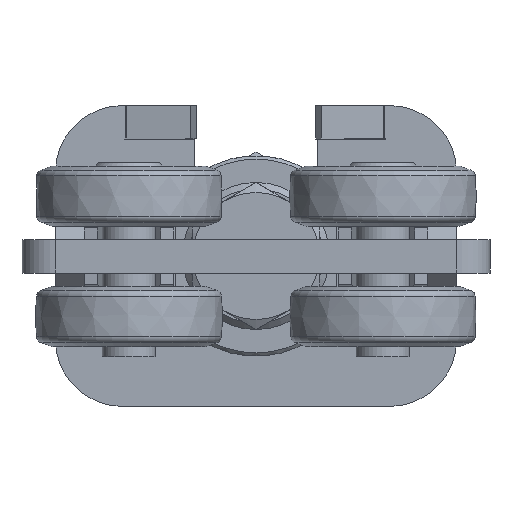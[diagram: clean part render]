
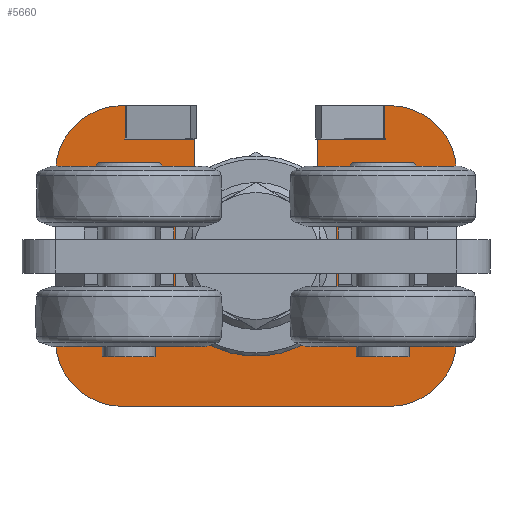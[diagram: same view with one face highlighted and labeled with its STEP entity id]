
A CAD part, front view. The second image highlights one B-rep face of the part: STEP entity #5660.
In plain terms, the highlighted planar face has unit normal (0, -1, 0) as drawn and (0, 0, 1) by its records, which use the part's own axes.
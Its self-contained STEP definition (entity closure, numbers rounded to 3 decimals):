
#188=FACE_BOUND('',#1114,.T.);
#189=FACE_BOUND('',#1115,.T.);
#282=CIRCLE('',#6048,10.);
#283=CIRCLE('',#6049,10.);
#284=CIRCLE('',#6050,10.);
#285=CIRCLE('',#6051,10.);
#286=CIRCLE('',#6052,9.25);
#768=FACE_OUTER_BOUND('',#1113,.T.);
#1113=EDGE_LOOP('',(#4081,#4082,#4083,#4084,#4085,#4086,#4087,#4088,#4089,
#4090,#4091,#4092,#4093,#4094,#4095,#4096,#4097,#4098,#4099,#4100));
#1114=EDGE_LOOP('',(#4101,#4102,#4103,#4104));
#1115=EDGE_LOOP('',(#4105,#4106,#4107,#4108));
#1562=LINE('',#8664,#2040);
#1574=LINE('',#8688,#2052);
#1578=LINE('',#8696,#2056);
#1580=LINE('',#8700,#2058);
#1583=LINE('',#8706,#2061);
#1584=LINE('',#8710,#2062);
#1585=LINE('',#8714,#2063);
#1586=LINE('',#8718,#2064);
#1587=LINE('',#8722,#2065);
#1588=LINE('',#8724,#2066);
#1589=LINE('',#8726,#2067);
#1590=LINE('',#8728,#2068);
#1591=LINE('',#8730,#2069);
#1592=LINE('',#8732,#2070);
#1593=LINE('',#8735,#2071);
#1594=LINE('',#8738,#2072);
#1595=LINE('',#8740,#2073);
#1596=LINE('',#8742,#2074);
#1597=LINE('',#8743,#2075);
#1598=LINE('',#8746,#2076);
#1599=LINE('',#8748,#2077);
#1600=LINE('',#8750,#2078);
#1601=LINE('',#8751,#2079);
#2040=VECTOR('',#6880,5.);
#2052=VECTOR('',#6906,0.1);
#2056=VECTOR('',#6912,0.1);
#2058=VECTOR('',#6916,10.379);
#2061=VECTOR('',#6921,0.471);
#2062=VECTOR('',#6924,25.);
#2063=VECTOR('',#6927,40.);
#2064=VECTOR('',#6930,25.);
#2065=VECTOR('',#6933,0.75);
#2066=VECTOR('',#6934,5.);
#2067=VECTOR('',#6935,0.1);
#2068=VECTOR('',#6936,0.1);
#2069=VECTOR('',#6937,10.1);
#2070=VECTOR('',#6938,17.45);
#2071=VECTOR('',#6941,17.45);
#2072=VECTOR('',#6942,5.2);
#2073=VECTOR('',#6943,15.7);
#2074=VECTOR('',#6944,5.2);
#2075=VECTOR('',#6945,15.7);
#2076=VECTOR('',#6946,5.2);
#2077=VECTOR('',#6947,15.7);
#2078=VECTOR('',#6948,5.2);
#2079=VECTOR('',#6949,15.7);
#2499=VERTEX_POINT('',#8651);
#2502=VERTEX_POINT('',#8658);
#2508=VERTEX_POINT('',#8687);
#2511=VERTEX_POINT('',#8695);
#2512=VERTEX_POINT('',#8699);
#2514=VERTEX_POINT('',#8705);
#2515=VERTEX_POINT('',#8707);
#2516=VERTEX_POINT('',#8709);
#2517=VERTEX_POINT('',#8711);
#2518=VERTEX_POINT('',#8713);
#2519=VERTEX_POINT('',#8715);
#2520=VERTEX_POINT('',#8717);
#2521=VERTEX_POINT('',#8719);
#2522=VERTEX_POINT('',#8721);
#2523=VERTEX_POINT('',#8723);
#2524=VERTEX_POINT('',#8725);
#2525=VERTEX_POINT('',#8727);
#2526=VERTEX_POINT('',#8729);
#2527=VERTEX_POINT('',#8731);
#2528=VERTEX_POINT('',#8733);
#2529=VERTEX_POINT('',#8736);
#2530=VERTEX_POINT('',#8737);
#2531=VERTEX_POINT('',#8739);
#2532=VERTEX_POINT('',#8741);
#2533=VERTEX_POINT('',#8744);
#2534=VERTEX_POINT('',#8745);
#2535=VERTEX_POINT('',#8747);
#2536=VERTEX_POINT('',#8749);
#3100=EDGE_CURVE('',#2499,#2502,#1562,.T.);
#3112=EDGE_CURVE('',#2508,#2499,#1574,.T.);
#3116=EDGE_CURVE('',#2511,#2508,#1578,.T.);
#3118=EDGE_CURVE('',#2511,#2512,#1580,.T.);
#3121=EDGE_CURVE('',#2514,#2502,#1583,.T.);
#3122=EDGE_CURVE('',#2515,#2514,#282,.T.);
#3123=EDGE_CURVE('',#2516,#2515,#1584,.T.);
#3124=EDGE_CURVE('',#2517,#2516,#283,.T.);
#3125=EDGE_CURVE('',#2518,#2517,#1585,.T.);
#3126=EDGE_CURVE('',#2519,#2518,#284,.T.);
#3127=EDGE_CURVE('',#2520,#2519,#1586,.T.);
#3128=EDGE_CURVE('',#2521,#2520,#285,.T.);
#3129=EDGE_CURVE('',#2522,#2521,#1587,.T.);
#3130=EDGE_CURVE('',#2522,#2523,#1588,.T.);
#3131=EDGE_CURVE('',#2523,#2524,#1589,.T.);
#3132=EDGE_CURVE('',#2524,#2525,#1590,.T.);
#3133=EDGE_CURVE('',#2525,#2526,#1591,.T.);
#3134=EDGE_CURVE('',#2527,#2526,#1592,.T.);
#3135=EDGE_CURVE('',#2528,#2527,#286,.T.);
#3136=EDGE_CURVE('',#2512,#2528,#1593,.T.);
#3137=EDGE_CURVE('',#2529,#2530,#1594,.T.);
#3138=EDGE_CURVE('',#2530,#2531,#1595,.T.);
#3139=EDGE_CURVE('',#2531,#2532,#1596,.T.);
#3140=EDGE_CURVE('',#2532,#2529,#1597,.T.);
#3141=EDGE_CURVE('',#2533,#2534,#1598,.T.);
#3142=EDGE_CURVE('',#2534,#2535,#1599,.T.);
#3143=EDGE_CURVE('',#2535,#2536,#1600,.T.);
#3144=EDGE_CURVE('',#2536,#2533,#1601,.T.);
#4081=ORIENTED_EDGE('',*,*,#3118,.F.);
#4082=ORIENTED_EDGE('',*,*,#3116,.T.);
#4083=ORIENTED_EDGE('',*,*,#3112,.T.);
#4084=ORIENTED_EDGE('',*,*,#3100,.T.);
#4085=ORIENTED_EDGE('',*,*,#3121,.F.);
#4086=ORIENTED_EDGE('',*,*,#3122,.F.);
#4087=ORIENTED_EDGE('',*,*,#3123,.F.);
#4088=ORIENTED_EDGE('',*,*,#3124,.F.);
#4089=ORIENTED_EDGE('',*,*,#3125,.F.);
#4090=ORIENTED_EDGE('',*,*,#3126,.F.);
#4091=ORIENTED_EDGE('',*,*,#3127,.F.);
#4092=ORIENTED_EDGE('',*,*,#3128,.F.);
#4093=ORIENTED_EDGE('',*,*,#3129,.F.);
#4094=ORIENTED_EDGE('',*,*,#3130,.T.);
#4095=ORIENTED_EDGE('',*,*,#3131,.T.);
#4096=ORIENTED_EDGE('',*,*,#3132,.T.);
#4097=ORIENTED_EDGE('',*,*,#3133,.T.);
#4098=ORIENTED_EDGE('',*,*,#3134,.F.);
#4099=ORIENTED_EDGE('',*,*,#3135,.F.);
#4100=ORIENTED_EDGE('',*,*,#3136,.F.);
#4101=ORIENTED_EDGE('',*,*,#3137,.T.);
#4102=ORIENTED_EDGE('',*,*,#3138,.T.);
#4103=ORIENTED_EDGE('',*,*,#3139,.T.);
#4104=ORIENTED_EDGE('',*,*,#3140,.T.);
#4105=ORIENTED_EDGE('',*,*,#3141,.T.);
#4106=ORIENTED_EDGE('',*,*,#3142,.T.);
#4107=ORIENTED_EDGE('',*,*,#3143,.T.);
#4108=ORIENTED_EDGE('',*,*,#3144,.T.);
#5461=PLANE('',#6047);
#5660=ADVANCED_FACE('',(#768,#188,#189),#5461,.T.);
#6047=AXIS2_PLACEMENT_3D('',#8704,#6919,#6920);
#6048=AXIS2_PLACEMENT_3D('',#8708,#6922,#6923);
#6049=AXIS2_PLACEMENT_3D('',#8712,#6925,#6926);
#6050=AXIS2_PLACEMENT_3D('',#8716,#6928,#6929);
#6051=AXIS2_PLACEMENT_3D('',#8720,#6931,#6932);
#6052=AXIS2_PLACEMENT_3D('',#8734,#6939,#6940);
#6880=DIRECTION('',(0.,-1.,0.));
#6906=DIRECTION('',(-1.,0.,0.));
#6912=DIRECTION('',(0.,-1.,0.));
#6916=DIRECTION('',(-1.,0.,0.));
#6919=DIRECTION('center_axis',(0.,0.,1.));
#6920=DIRECTION('ref_axis',(1.,0.,0.));
#6921=DIRECTION('',(-1.,0.,0.));
#6922=DIRECTION('center_axis',(0.,0.,-1.));
#6923=DIRECTION('ref_axis',(0.,-1.,0.));
#6924=DIRECTION('',(0.,-1.,0.));
#6925=DIRECTION('center_axis',(0.,0.,-1.));
#6926=DIRECTION('ref_axis',(1.,0.,0.));
#6927=DIRECTION('',(1.,0.,0.));
#6928=DIRECTION('center_axis',(0.,0.,-1.));
#6929=DIRECTION('ref_axis',(0.,1.,0.));
#6930=DIRECTION('',(0.,1.,0.));
#6931=DIRECTION('center_axis',(0.,0.,-1.));
#6932=DIRECTION('ref_axis',(-1.,0.,0.));
#6933=DIRECTION('',(-1.,0.,0.));
#6934=DIRECTION('',(0.,1.,0.));
#6935=DIRECTION('',(-1.,0.,0.));
#6936=DIRECTION('',(0.,1.,0.));
#6937=DIRECTION('',(1.,0.,0.));
#6938=DIRECTION('',(0.,-1.,0.));
#6939=DIRECTION('center_axis',(0.,0.,1.));
#6940=DIRECTION('ref_axis',(-1.,0.,0.));
#6941=DIRECTION('',(0.,1.,0.));
#6942=DIRECTION('',(0.,-1.,0.));
#6943=DIRECTION('',(-1.,0.,0.));
#6944=DIRECTION('',(0.,1.,0.));
#6945=DIRECTION('',(1.,0.,0.));
#6946=DIRECTION('',(0.,-1.,0.));
#6947=DIRECTION('',(-1.,0.,0.));
#6948=DIRECTION('',(0.,1.,0.));
#6949=DIRECTION('',(1.,0.,0.));
#8651=CARTESIAN_POINT('',(19.529,-17.5,5.));
#8658=CARTESIAN_POINT('',(19.529,-22.5,5.));
#8664=CARTESIAN_POINT('',(19.529,-12.346,5.));
#8687=CARTESIAN_POINT('',(19.629,-17.5,5.));
#8688=CARTESIAN_POINT('',(9.435,-17.5,5.));
#8695=CARTESIAN_POINT('',(19.629,-17.4,5.));
#8696=CARTESIAN_POINT('',(19.629,-9.846,5.));
#8699=CARTESIAN_POINT('',(9.25,-17.4,5.));
#8700=CARTESIAN_POINT('',(9.25,-17.4,5.));
#8704=CARTESIAN_POINT('Origin',(0.,-2.192,
5.));
#8705=CARTESIAN_POINT('',(20.,-22.5,5.));
#8706=CARTESIAN_POINT('',(-20.,-22.5,5.));
#8707=CARTESIAN_POINT('',(30.,-12.5,5.));
#8708=CARTESIAN_POINT('Origin',(20.,-12.5,5.));
#8709=CARTESIAN_POINT('',(30.,12.5,5.));
#8710=CARTESIAN_POINT('',(30.,-12.5,5.));
#8711=CARTESIAN_POINT('',(20.,22.5,5.));
#8712=CARTESIAN_POINT('Origin',(20.,12.5,5.));
#8713=CARTESIAN_POINT('',(-20.,22.5,5.));
#8714=CARTESIAN_POINT('',(20.,22.5,5.));
#8715=CARTESIAN_POINT('',(-30.,12.5,5.));
#8716=CARTESIAN_POINT('Origin',(-20.,12.5,5.));
#8717=CARTESIAN_POINT('',(-30.,-12.5,5.));
#8718=CARTESIAN_POINT('',(-30.,12.5,5.));
#8719=CARTESIAN_POINT('',(-20.,-22.5,5.));
#8720=CARTESIAN_POINT('Origin',(-20.,-12.5,5.));
#8721=CARTESIAN_POINT('',(-19.25,-22.5,5.));
#8722=CARTESIAN_POINT('',(-20.,-22.5,5.));
#8723=CARTESIAN_POINT('',(-19.25,-17.5,5.));
#8724=CARTESIAN_POINT('',(-19.25,-9.846,5.));
#8725=CARTESIAN_POINT('',(-19.35,-17.5,5.));
#8726=CARTESIAN_POINT('',(-9.675,-17.5,5.));
#8727=CARTESIAN_POINT('',(-19.35,-17.4,5.));
#8728=CARTESIAN_POINT('',(-19.35,-9.796,5.));
#8729=CARTESIAN_POINT('',(-9.25,-17.4,5.));
#8730=CARTESIAN_POINT('',(-9.296,-17.4,5.));
#8731=CARTESIAN_POINT('',(-9.25,0.05,5.));
#8732=CARTESIAN_POINT('',(-9.25,-17.4,5.));
#8733=CARTESIAN_POINT('',(9.25,0.05,5.));
#8734=CARTESIAN_POINT('Origin',(0.,0.05,
5.));
#8735=CARTESIAN_POINT('',(9.25,0.05,5.));
#8736=CARTESIAN_POINT('',(-12.3,2.6,5.));
#8737=CARTESIAN_POINT('',(-12.3,-2.6,5.));
#8738=CARTESIAN_POINT('',(-12.3,0.204,5.));
#8739=CARTESIAN_POINT('',(-28.,-2.6,5.));
#8740=CARTESIAN_POINT('',(-6.15,-2.6,5.));
#8741=CARTESIAN_POINT('',(-28.,2.6,5.));
#8742=CARTESIAN_POINT('',(-28.,-2.396,5.));
#8743=CARTESIAN_POINT('',(-14.,2.6,5.));
#8744=CARTESIAN_POINT('',(28.,2.6,5.));
#8745=CARTESIAN_POINT('',(28.,-2.6,5.));
#8746=CARTESIAN_POINT('',(28.,0.204,5.));
#8747=CARTESIAN_POINT('',(12.3,-2.6,5.));
#8748=CARTESIAN_POINT('',(14.,-2.6,5.));
#8749=CARTESIAN_POINT('',(12.3,2.6,5.));
#8750=CARTESIAN_POINT('',(12.3,-2.396,5.));
#8751=CARTESIAN_POINT('',(6.15,2.6,5.));
